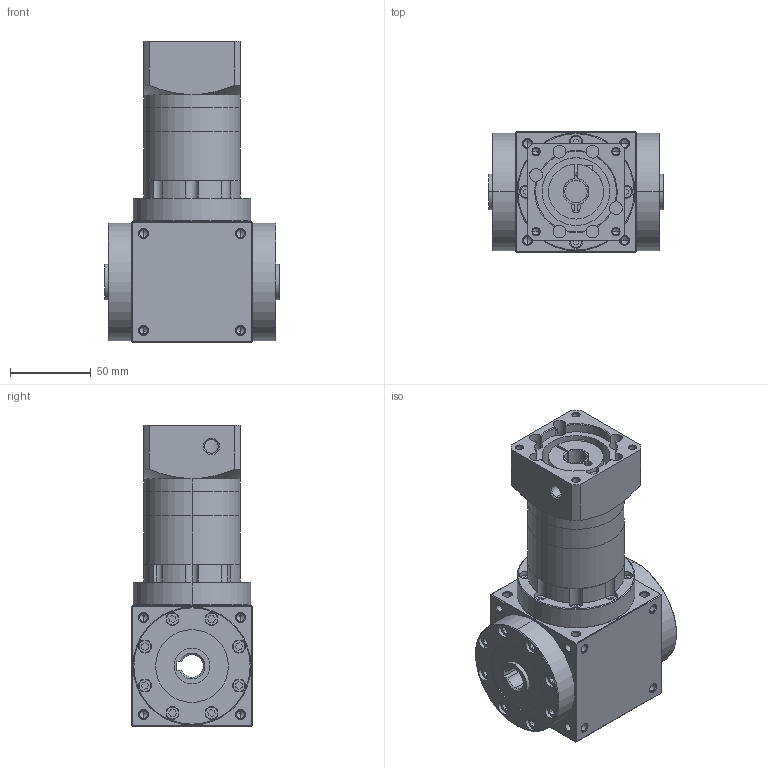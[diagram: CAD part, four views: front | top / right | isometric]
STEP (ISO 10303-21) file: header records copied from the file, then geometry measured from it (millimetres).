
FILE_DESCRIPTION (( 'STEP AP203' ), '1' );
FILE_NAME ('AT075-FH-L4-14-50-70M5.STEP', '2025-08-13T01:39:26', ( 'Windows User' ), ( 'P R C' ), 'SwSTEP 2.0', 'SolidWorks 2016', '' );
FILE_SCHEMA (( 'CONFIG_CONTROL_DESIGN' ));
Length unit declared in the file: millimetre
Products named in the file (7): 输入胀套-16; AT075-FH-L4-14-50-70M5; AT75FH-转角箱体-批量-孔输出; AT75-怀堤楊擘-蠶講; AT075-双级齿圈; AT075-输入法兰-B-50-M5-70; AT075-单级齿圈
Assembly tree (6 placements, depth 2):
  AT075-FH-L4-14-50-70M5
    AT75FH-转角箱体-批量-孔输出
    AT75-怀堤楊擘-蠶講
    AT075-双级齿圈
    AT075-输入法兰-B-50-M5-70
    AT075-单级齿圈
    输入胀套-16
Bounding box: 108 x 75 x 186.5 mm (x, y, z)
Volume: 622829.8 mm3; surface area: 150819 mm2
Topology: 6 solids, 22 shells, 1611 faces, 4118 edges, 2581 vertices
Faces by surface type: plane 794, cylinder 387, cone 298, bspline 132
Entity records: 53551 total; most frequent: CARTESIAN_POINT 15046, ORIENTED_EDGE 8004, DIRECTION 7432, EDGE_CURVE 4002, VERTEX_POINT 2581, VECTOR 2552, LINE 2552, AXIS2_PLACEMENT_3D 2440
